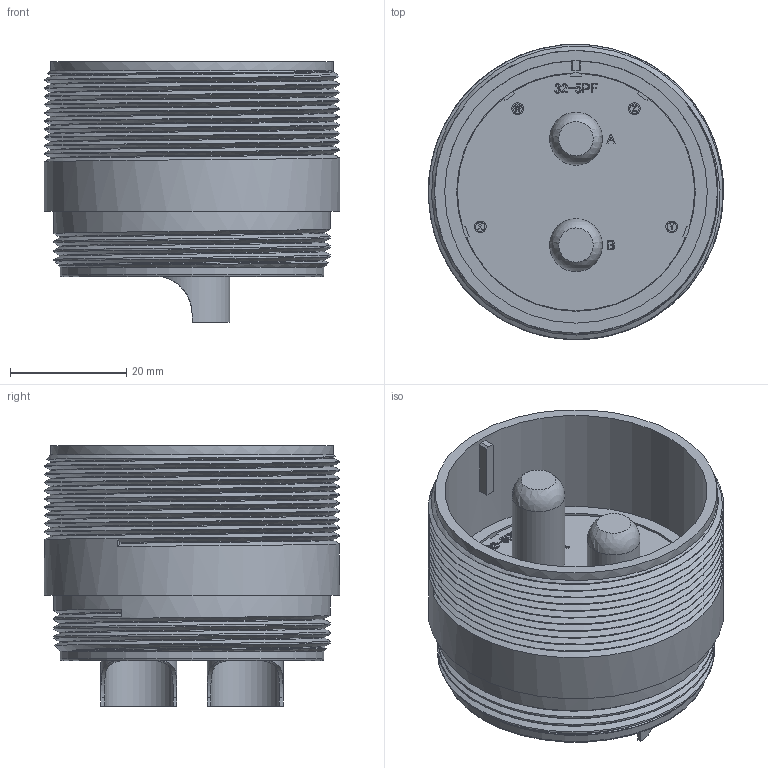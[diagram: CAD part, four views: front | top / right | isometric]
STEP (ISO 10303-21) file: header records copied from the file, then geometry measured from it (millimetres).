
FILE_DESCRIPTION (( 'STEP AP203' ), '1' );
FILE_NAME ('DMS3101A32-5P(D263).STEP', '2022-02-16T00:42:43', ( '' ), ( '' ), 'SwSTEP 2.0', 'SolidWorks 2018', '' );
FILE_SCHEMA (( 'CONFIG_CONTROL_DESIGN' ));
Length unit declared in the file: millimetre
Products named in the file (1): DMS3101A32-5P(D263)
Bounding box: 50.76 x 50.76 x 44.83 mm (x, y, z)
Volume: 35817 mm3; surface area: 18925.4 mm2
Topology: 1 solids, 1 shells, 472 faces, 1265 edges, 841 vertices
Faces by surface type: plane 254, bspline 165, cylinder 48, sphere 2, cone 2, torus 1
Full cylindrical faces by diameter (mm): 1.6 x4, 2 x4, 9.07 x2, 11.79 x2, 13.03 x2, 38.1 x1, 41 x1, 42.93 x1, 45.12 x1, 45.3 x1, 47.58 x3, 48.6 x1, 50.76 x9
Entity records: 20812 total; most frequent: CARTESIAN_POINT 10562, ORIENTED_EDGE 2372, DIRECTION 1511, EDGE_CURVE 1186, VERTEX_POINT 803, VECTOR 767, LINE 767, EDGE_LOOP 535
